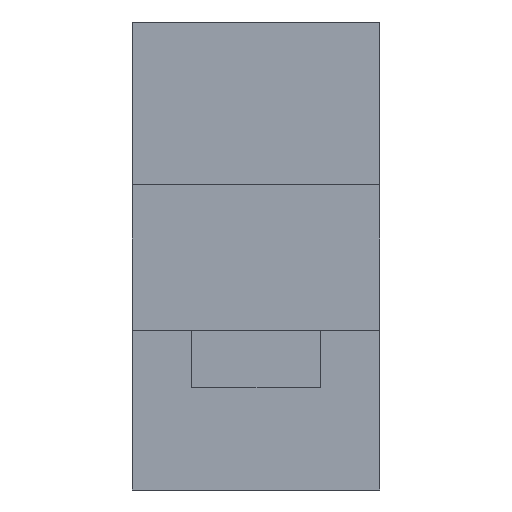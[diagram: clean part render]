
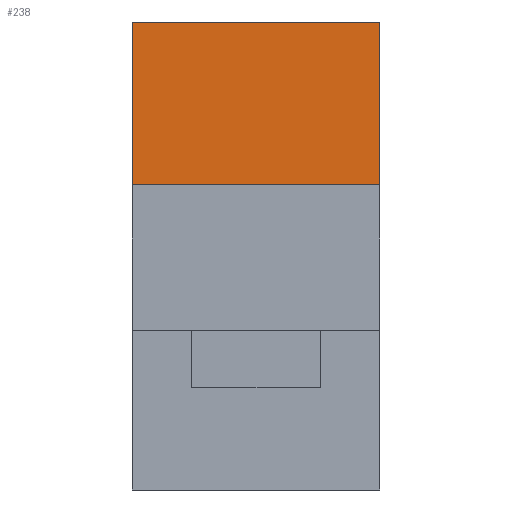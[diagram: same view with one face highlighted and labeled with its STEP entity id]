
A CAD part, left-side view. The second image highlights one B-rep face of the part: STEP entity #238.
In plain terms, the highlighted planar face has unit normal (-1, 0, 0).
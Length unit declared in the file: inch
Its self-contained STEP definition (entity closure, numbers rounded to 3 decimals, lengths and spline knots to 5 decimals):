
#238=ADVANCED_FACE('',(#981),#613,.T.);
#613=PLANE('',#6941);
#981=FACE_OUTER_BOUND('',#1355,.T.);
#1355=EDGE_LOOP('',(#1843,#1844,#1845,#1846));
#1843=ORIENTED_EDGE('',*,*,#4274,.T.);
#1844=ORIENTED_EDGE('',*,*,#4277,.T.);
#1845=ORIENTED_EDGE('',*,*,#4272,.F.);
#1846=ORIENTED_EDGE('',*,*,#4301,.T.);
#3648=VERTEX_POINT('',#8950);
#3650=VERTEX_POINT('',#8954);
#3651=VERTEX_POINT('',#8958);
#3652=VERTEX_POINT('',#8960);
#4272=EDGE_CURVE('',#3650,#3648,#5199,.T.);
#4274=EDGE_CURVE('',#3652,#3651,#5201,.T.);
#4277=EDGE_CURVE('',#3651,#3648,#5204,.T.);
#4301=EDGE_CURVE('',#3650,#3652,#5205,.T.);
#5199=LINE('',#8955,#6071);
#5201=LINE('',#8959,#6073);
#5204=LINE('',#8965,#6076);
#5205=LINE('',#9128,#6077);
#6071=VECTOR('',#7329,1.);
#6073=VECTOR('',#7333,1.);
#6076=VECTOR('',#7338,1.);
#6077=VECTOR('',#7341,1.);
#6941=AXIS2_PLACEMENT_3D('',#9129,#7342,#7343);
#7329=DIRECTION('',(0.,0.,1.));
#7333=DIRECTION('',(0.,0.,1.));
#7338=DIRECTION('',(0.,1.,0.));
#7341=DIRECTION('',(0.,-1.,0.));
#7342=DIRECTION('',(-1.,0.,0.));
#7343=DIRECTION('',(0.,0.,1.));
#8950=CARTESIAN_POINT('',(0.0965,0.17,0.454));
#8954=CARTESIAN_POINT('',(0.0965,0.17,0.296));
#8955=CARTESIAN_POINT('',(0.0965,0.17,0.363));
#8958=CARTESIAN_POINT('',(0.0965,-0.07,0.454));
#8959=CARTESIAN_POINT('',(0.0965,-0.07,0.363));
#8960=CARTESIAN_POINT('',(0.0965,-0.07,0.296));
#8965=CARTESIAN_POINT('',(0.0965,0.05,0.454));
#9128=CARTESIAN_POINT('',(0.0965,0.17,0.296));
#9129=CARTESIAN_POINT('',(0.0965,0.05,0.363));
